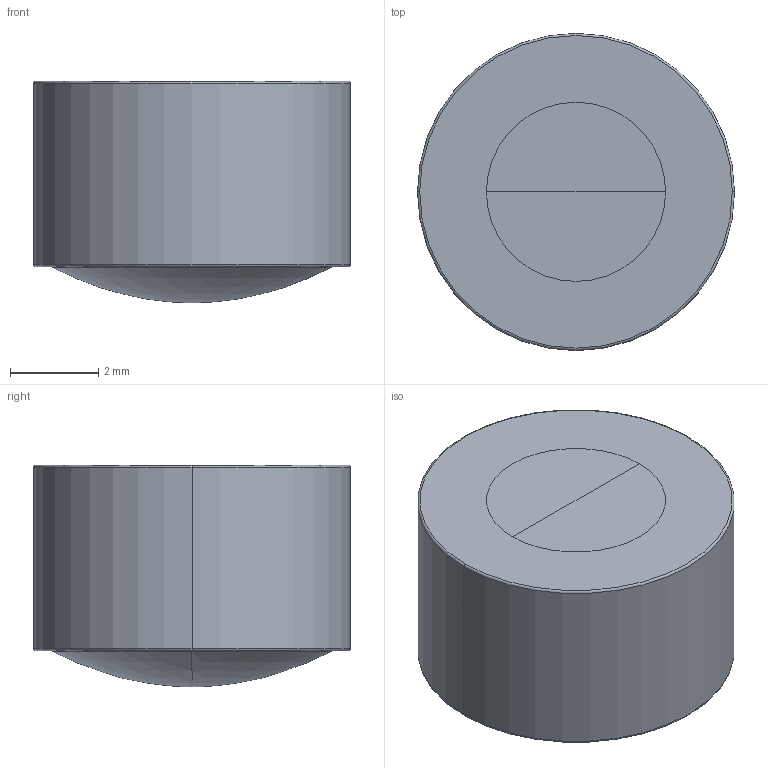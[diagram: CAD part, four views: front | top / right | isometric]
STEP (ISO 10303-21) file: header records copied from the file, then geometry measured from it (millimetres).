
FILE_DESCRIPTION((''),'2;1');
FILE_NAME('354220','2025-07-27T10:18:24',('admin'),('LIGHTPATH'),'CREO PARAMETRIC BY PTC INC, 2024063','CREO PARAMETRIC BY PTC INC, 2024063','');
FILE_SCHEMA(('CONFIG_CONTROL_DESIGN'));
Length unit declared in the file: millimetre
Products named in the file (1): 354220
Bounding box: 7.2 x 7.2 x 5.03 mm (x, y, z)
Volume: 184.8 mm3; surface area: 177.8 mm2
Topology: 1 solids, 1 shells, 14 faces, 30 edges, 16 vertices
Faces by surface type: torus 6, revolution 4, plane 2, cylinder 2
Entity records: 671 total; most frequent: CARTESIAN_POINT 335, DIRECTION 68, ORIENTED_EDGE 52, AXIS2_PLACEMENT_3D 30, EDGE_CURVE 26, CIRCLE 20, VERTEX_POINT 16, EDGE_LOOP 16
